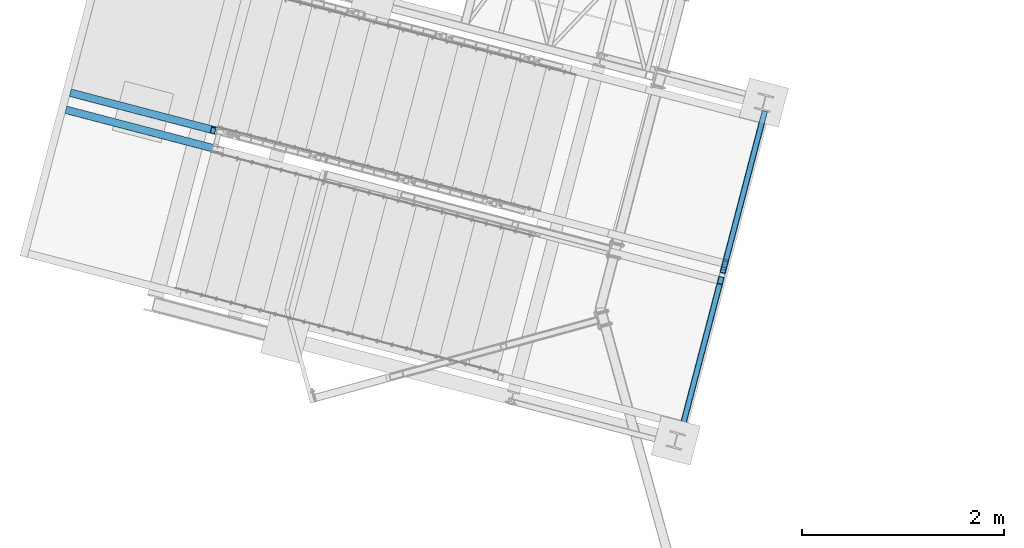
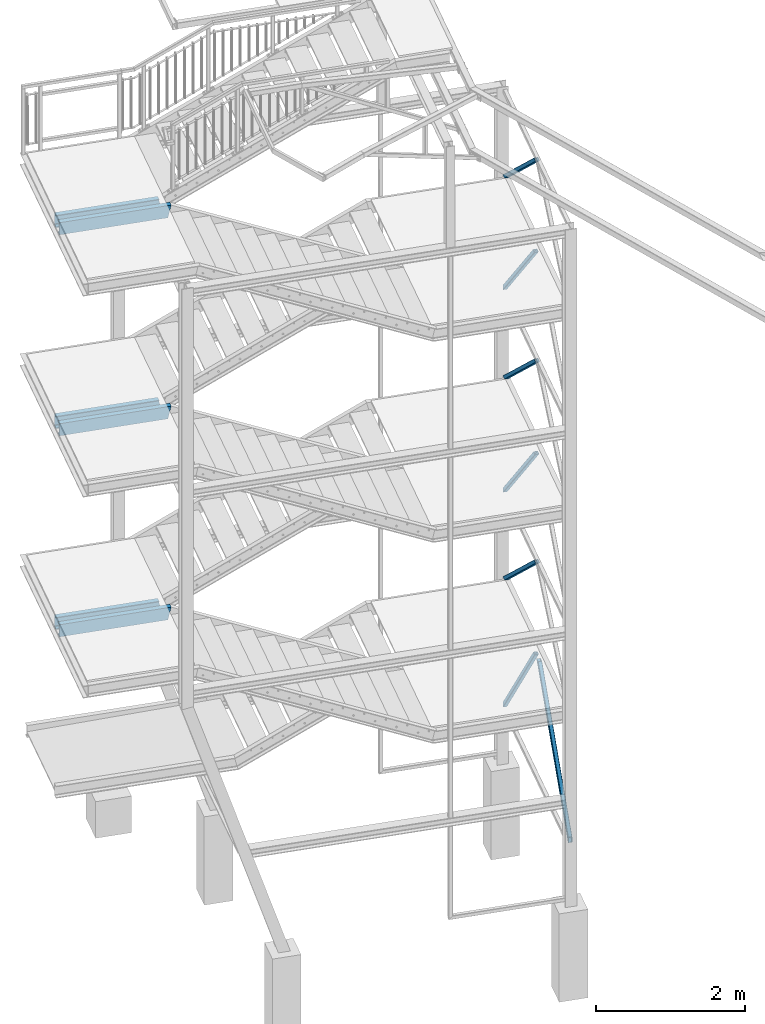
# One storey, part 38 of 169: 13 discrete accessories, 12 elements without a shape of their own.
"""IFC2X3 building model written with IfcOpenShell, lengths in millimetres."""

from ifc_helpers import new_model, si_unit, frame, origin_with_axes, origin_2d_with_axis, place, context, subcontext, project, spatial, polyline, hollow_rectangle, u_section, outline, extrude, boolean, clip, halfspace, material, type_object, element, aggregate, save


model = new_model("IFC2X3")

# Units and contexts
model_context = context("Model", 3, precision=1e-05, world=origin_with_axes())
body_context = subcontext(model_context, "Body", "Model", "MODEL_VIEW")
ifc_project = project(units=[si_unit("LENGTHUNIT", "METRE", prefix="MILLI"), si_unit("AREAUNIT", "SQUARE_METRE"), si_unit("VOLUMEUNIT", "CUBIC_METRE"), si_unit("MASSUNIT", "GRAM", prefix="KILO"), si_unit("TIMEUNIT", "SECOND"), si_unit("PLANEANGLEUNIT", "RADIAN"), si_unit("SOLIDANGLEUNIT", "STERADIAN"), si_unit("THERMODYNAMICTEMPERATUREUNIT", "DEGREE_CELSIUS"), si_unit("LUMINOUSINTENSITYUNIT", "LUMEN")], contexts=[model_context])

# Site, building, storey
site_placement = place(None, origin_with_axes())
site = spatial("IfcSite", under=ifc_project, at=site_placement, Name="Undefined", CompositionType="ELEMENT")
building_placement = place(site_placement, origin_with_axes())
building = spatial("IfcBuilding", under=site, at=building_placement, Name="Undefined", CompositionType="ELEMENT")
storey_placement = place(building_placement, origin_with_axes())
storey = spatial("IfcBuildingStorey", under=building, at=storey_placement, Name="Undefined", CompositionType="ELEMENT", Elevation=0.0)

# Assembly, discrete accessory
assembly_1_placement = place(storey_placement, origin_with_axes())
assembly_1 = element("IfcElementAssembly", 1, at=assembly_1_placement, inside=storey, Name="Steel Assembly", AssemblyPlace="NOTDEFINED", PredefinedType="RIGID_FRAME")
ifc_material = material(Name="STEEL/S235")
discrete_accessory_type_1 = type_object("IfcDiscreteAccessoryType", Name="BELKA")
discrete_accessory_1_placement = place(assembly_1_placement, frame((-29380.2771381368, 7752.45657490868, 12250.0957859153), z_axis=(0.0, 0.0, 1.0), x_axis=(0.967580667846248, -0.252562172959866, 0.0)))
discrete_accessory_1 = element("IfcDiscreteAccessory", 2, at=discrete_accessory_1_placement, type_object=discrete_accessory_type_1, material=ifc_material, Name="BELKA", ObjectType="UPN200", context=body_context, shape_type="Clipping", body=[
    clip(extrude(u_section(Depth=200.0, FlangeWidth=75.0, WebThickness=8.5, FlangeThickness=11.5, FilletRadius=11.5, EdgeRadius=6.0, at=origin_2d_with_axis()), frame((1524.47236507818, 0.0, 1.81898940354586e-12), z_axis=(-1.0, -3.46944695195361e-18, -1.38777878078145e-17), x_axis=(1.73472347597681e-18, -1.0, 0.0)), (0.0, 0.0, 1.0), 1524.47), halfspace(frame((1439.99999935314, -2.50792254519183e-07, 100.000000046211), z_axis=(-0.973248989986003, -3.54065919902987e-15, -0.229752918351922), x_axis=(1.73472347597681e-18, -1.0, 0.0)), True)),
])
aggregate(assembly_1, [discrete_accessory_1])

assembly_2_placement = place(storey_placement, origin_with_axes())
assembly_2 = element("IfcElementAssembly", 3, at=assembly_2_placement, inside=storey, Name="Steel Assembly", AssemblyPlace="NOTDEFINED", PredefinedType="RIGID_FRAME")
discrete_accessory_2_placement = place(assembly_2_placement, frame((-27915.0633320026, 7189.1280599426, 12250.321566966), z_axis=(0.0, 0.0, 1.0), x_axis=(-0.967546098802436, 0.252694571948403, 0.0)))
discrete_accessory_2 = element("IfcDiscreteAccessory", 4, at=discrete_accessory_2_placement, type_object=discrete_accessory_type_1, material=ifc_material, Name="BELKA", ObjectType="UPN200", context=body_context, shape_type="Clipping", body=[
    clip(extrude(u_section(Depth=200.0, FlangeWidth=75.0, WebThickness=8.5, FlangeThickness=11.5, FilletRadius=11.5, EdgeRadius=6.0, at=origin_2d_with_axis()), frame((1559.99999929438, 0.0, 0.0), z_axis=(-1.0, -3.46944695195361e-18, -1.38777878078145e-17), x_axis=(1.73472347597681e-18, -1.0, 0.0)), (0.0, 0.0, 1.0), 1597.28), halfspace(frame((3.32713170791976e-06, -37.5000000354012, 100.000000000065), z_axis=(-0.973248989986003, -3.54065919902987e-15, -0.229752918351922), x_axis=(1.73472347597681e-18, -1.0, 0.0)), False)),
])
aggregate(assembly_2, [discrete_accessory_2])

assembly_3_placement = place(storey_placement, origin_with_axes())
assembly_3 = element("IfcElementAssembly", 5, at=assembly_3_placement, inside=storey, Name="Steel Assembly", AssemblyPlace="NOTDEFINED", PredefinedType="RIGID_FRAME")
discrete_accessory_3_placement = place(assembly_3_placement, frame((-29380.3912155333, 7752.01965996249, 8950.09581681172), z_axis=(0.0, 0.0, 1.0), x_axis=(0.967580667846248, -0.252562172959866, 0.0)))
discrete_accessory_3 = element("IfcDiscreteAccessory", 6, at=discrete_accessory_3_placement, type_object=discrete_accessory_type_1, material=ifc_material, Name="BELKA", ObjectType="UPN200", context=body_context, shape_type="Clipping", body=[
    clip(extrude(u_section(Depth=200.0, FlangeWidth=75.0, WebThickness=8.5, FlangeThickness=11.5, FilletRadius=11.5, EdgeRadius=6.0, at=origin_2d_with_axis()), frame((1524.47236507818, 0.0, 1.81898940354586e-12), z_axis=(-1.0, -3.46944695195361e-18, -1.38777878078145e-17), x_axis=(1.73472347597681e-18, -1.0, 0.0)), (0.0, 0.0, 1.0), 1524.47), halfspace(frame((1439.99999935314, -2.50792254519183e-07, 100.000000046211), z_axis=(-0.973248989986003, -3.54065919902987e-15, -0.229752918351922), x_axis=(1.73472347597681e-18, -1.0, 0.0)), True)),
])
aggregate(assembly_3, [discrete_accessory_3])

assembly_4_placement = place(storey_placement, origin_with_axes())
assembly_4 = element("IfcElementAssembly", 7, at=assembly_4_placement, inside=storey, Name="Steel Assembly", AssemblyPlace="NOTDEFINED", PredefinedType="RIGID_FRAME")
discrete_accessory_4_placement = place(assembly_4_placement, frame((-27915.1774094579, 7188.69114499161, 8950.32159785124), z_axis=(0.0, 0.0, 1.0), x_axis=(-0.967546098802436, 0.252694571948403, 0.0)))
discrete_accessory_4 = element("IfcDiscreteAccessory", 8, at=discrete_accessory_4_placement, type_object=discrete_accessory_type_1, material=ifc_material, Name="BELKA", ObjectType="UPN200", context=body_context, shape_type="Clipping", body=[
    clip(extrude(u_section(Depth=200.0, FlangeWidth=75.0, WebThickness=8.5, FlangeThickness=11.5, FilletRadius=11.5, EdgeRadius=6.0, at=origin_2d_with_axis()), frame((1559.99999929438, 0.0, 0.0), z_axis=(-1.0, -3.46944695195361e-18, -1.38777878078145e-17), x_axis=(1.73472347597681e-18, -1.0, 0.0)), (0.0, 0.0, 1.0), 1597.28), halfspace(frame((3.32713170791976e-06, -37.5000000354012, 100.000000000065), z_axis=(-0.973248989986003, -3.54065919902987e-15, -0.229752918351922), x_axis=(1.73472347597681e-18, -1.0, 0.0)), False)),
])
aggregate(assembly_4, [discrete_accessory_4])

assembly_5_placement = place(storey_placement, origin_with_axes())
assembly_5 = element("IfcElementAssembly", 9, at=assembly_5_placement, inside=storey, Name="Steel Assembly", AssemblyPlace="NOTDEFINED", PredefinedType="RIGID_FRAME")
discrete_accessory_5_placement = place(assembly_5_placement, frame((-29380.5052929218, 7751.58274500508, 5650.09584770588), z_axis=(0.0, 0.0, 1.0), x_axis=(0.967580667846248, -0.252562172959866, 0.0)))
discrete_accessory_5 = element("IfcDiscreteAccessory", 10, at=discrete_accessory_5_placement, type_object=discrete_accessory_type_1, material=ifc_material, Name="BELKA", ObjectType="UPN200", context=body_context, shape_type="Clipping", body=[
    clip(extrude(u_section(Depth=200.0, FlangeWidth=75.0, WebThickness=8.5, FlangeThickness=11.5, FilletRadius=11.5, EdgeRadius=6.0, at=origin_2d_with_axis()), frame((1524.47236507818, 0.0, 1.81898940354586e-12), z_axis=(-1.0, -3.46944695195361e-18, -1.38777878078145e-17), x_axis=(1.73472347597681e-18, -1.0, 0.0)), (0.0, 0.0, 1.0), 1524.47), halfspace(frame((1439.99999935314, -2.50792254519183e-07, 100.000000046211), z_axis=(-0.973248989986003, -3.54065919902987e-15, -0.229752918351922), x_axis=(1.73472347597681e-18, -1.0, 0.0)), True)),
])
aggregate(assembly_5, [discrete_accessory_5])

assembly_6_placement = place(storey_placement, origin_with_axes())
assembly_6 = element("IfcElementAssembly", 11, at=assembly_6_placement, inside=storey, Name="Steel Assembly", AssemblyPlace="NOTDEFINED", PredefinedType="RIGID_FRAME")
discrete_accessory_6_placement = place(assembly_6_placement, frame((-27915.2914868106, 7188.25423003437, 5650.32162876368), z_axis=(0.0, 0.0, 1.0), x_axis=(-0.967546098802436, 0.252694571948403, 0.0)))
discrete_accessory_6 = element("IfcDiscreteAccessory", 12, at=discrete_accessory_6_placement, type_object=discrete_accessory_type_1, material=ifc_material, Name="BELKA", ObjectType="UPN200", context=body_context, shape_type="Clipping", body=[
    clip(extrude(u_section(Depth=200.0, FlangeWidth=75.0, WebThickness=8.5, FlangeThickness=11.5, FilletRadius=11.5, EdgeRadius=6.0, at=origin_2d_with_axis()), frame((1559.99999929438, 0.0, 0.0), z_axis=(-1.0, -3.46944695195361e-18, -1.38777878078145e-17), x_axis=(1.73472347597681e-18, -1.0, 0.0)), (0.0, 0.0, 1.0), 1597.28), halfspace(frame((3.32713170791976e-06, -37.5000000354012, 100.000000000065), z_axis=(-0.973248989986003, -3.54065919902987e-15, -0.229752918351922), x_axis=(1.73472347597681e-18, -1.0, 0.0)), False)),
])
aggregate(assembly_6, [discrete_accessory_6])

assembly_7_placement = place(storey_placement, origin_with_axes())
assembly_7 = element("IfcElementAssembly", 13, at=assembly_7_placement, inside=storey, Name="Steel Assembly", AssemblyPlace="NOTDEFINED", PredefinedType="RIGID_FRAME")
discrete_accessory_type_2 = type_object("IfcDiscreteAccessoryType", Name="COLUMN")
discrete_accessory_7_placement = place(assembly_7_placement, frame((-22914.9032336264, 5973.99254774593, 12070.2086793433), z_axis=(-0.967563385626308, 0.252628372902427, -1.72000000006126e-07), x_axis=(0.192492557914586, 0.737243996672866, -0.647624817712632)))
discrete_accessory_7 = element("IfcDiscreteAccessory", 14, at=discrete_accessory_7_placement, type_object=discrete_accessory_type_2, material=ifc_material, Name="COLUMN", ObjectType="SHS60*4", context=body_context, shape_type="CSG", body=[
    boolean("DIFFERENCE", boolean("DIFFERENCE", boolean("DIFFERENCE", extrude(hollow_rectangle(XDim=60.0, YDim=60.0, WallThickness=4.0, InnerFilletRadius=4.0, OuterFilletRadius=8.0, at=origin_2d_with_axis()), frame((2212.16382141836, -1.94178916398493e-12, -3.69552319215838e-12), z_axis=(-1.0, -3.46944695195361e-18, -1.38777878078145e-17), x_axis=(1.73472347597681e-18, -1.0, 0.0)), (0.0, 0.0, 1.0), 2212.78), extrude(outline(polyline([(0.0, 0.0), (126.745407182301, 4.74137777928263e-08), (126.745407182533, 200.000000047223), (7.80316895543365e-08, 200.000000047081), (0.0, 0.0)])), frame((2144.48233515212, -24.4031554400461, 32.4999994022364), z_axis=(-2.54700353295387e-10, 0.0, -1.0), x_axis=(-0.762047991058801, 0.647520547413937, 5.42642991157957e-10)), (0.0, 0.0, 1.0), 65.0)), halfspace(frame((3186.99041650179, 1202.49411017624, 94.9999991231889), z_axis=(-0.762047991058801, 0.647520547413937, 5.42642991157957e-10), x_axis=(-0.64752054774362, -0.762047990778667, -3.39277903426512e-11)), True)), halfspace(frame((19.4256163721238, 22.8614397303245, 999.999999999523), z_axis=(0.647520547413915, 0.76204799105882, -1.73434819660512e-10), x_axis=(-0.762047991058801, 0.647520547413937, 5.42642991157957e-10)), True)),
])
aggregate(assembly_7, [discrete_accessory_7])

assembly_8_placement = place(storey_placement, origin_with_axes())
assembly_8 = element("IfcElementAssembly", 15, at=assembly_8_placement, inside=storey, Name="Steel Assembly", AssemblyPlace="NOTDEFINED", PredefinedType="RIGID_FRAME")
discrete_accessory_8_placement = place(assembly_8_placement, frame((-22915.0173110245, 5973.55563279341, 8770.20871023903), z_axis=(-0.967563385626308, 0.252628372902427, -1.72000000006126e-07), x_axis=(0.192492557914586, 0.737243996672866, -0.647624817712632)))
discrete_accessory_8 = element("IfcDiscreteAccessory", 16, at=discrete_accessory_8_placement, type_object=discrete_accessory_type_2, material=ifc_material, Name="COLUMN", ObjectType="SHS60*4", context=body_context, shape_type="CSG", body=[
    boolean("DIFFERENCE", boolean("DIFFERENCE", boolean("DIFFERENCE", extrude(hollow_rectangle(XDim=60.0, YDim=60.0, WallThickness=4.0, InnerFilletRadius=4.0, OuterFilletRadius=8.0, at=origin_2d_with_axis()), frame((2212.16382141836, -1.94178916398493e-12, -3.69552319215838e-12), z_axis=(-1.0, -3.46944695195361e-18, -1.38777878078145e-17), x_axis=(1.73472347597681e-18, -1.0, 0.0)), (0.0, 0.0, 1.0), 2212.78), extrude(outline(polyline([(0.0, 0.0), (120.000000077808, 4.71382008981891e-08), (120.000000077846, 200.000000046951), (7.80316895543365e-08, 200.000000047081), (0.0, 0.0)])), frame((2144.48233515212, -24.4031554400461, 32.4999994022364), z_axis=(-2.54700353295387e-10, 0.0, -1.0), x_axis=(-0.762047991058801, 0.647520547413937, 5.42642991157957e-10)), (0.0, 0.0, 1.0), 65.0)), halfspace(frame((3186.99041650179, 1202.49411017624, 94.9999991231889), z_axis=(-0.762047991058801, 0.647520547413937, 5.42642991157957e-10), x_axis=(-0.64752054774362, -0.762047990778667, -3.39277903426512e-11)), True)), halfspace(frame((19.4256163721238, 22.8614397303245, 999.999999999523), z_axis=(0.647520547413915, 0.76204799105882, -1.73434819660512e-10), x_axis=(-0.762047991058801, 0.647520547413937, 5.42642991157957e-10)), True)),
])
aggregate(assembly_8, [discrete_accessory_8])

assembly_9_placement = place(storey_placement, origin_with_axes())
assembly_9 = element("IfcElementAssembly", 17, at=assembly_9_placement, inside=storey, Name="Steel Assembly", AssemblyPlace="NOTDEFINED", PredefinedType="RIGID_FRAME")
discrete_accessory_9_placement = place(assembly_9_placement, frame((-22915.1313884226, 5973.11871784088, 5470.20874113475), z_axis=(-0.967563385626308, 0.252628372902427, -1.72000000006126e-07), x_axis=(0.192492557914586, 0.737243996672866, -0.647624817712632)))
discrete_accessory_9 = element("IfcDiscreteAccessory", 18, at=discrete_accessory_9_placement, type_object=discrete_accessory_type_2, material=ifc_material, Name="COLUMN", ObjectType="SHS60*4", context=body_context, shape_type="CSG", body=[
    boolean("DIFFERENCE", boolean("DIFFERENCE", boolean("DIFFERENCE", extrude(hollow_rectangle(XDim=60.0, YDim=60.0, WallThickness=4.0, InnerFilletRadius=4.0, OuterFilletRadius=8.0, at=origin_2d_with_axis()), frame((2212.16382141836, -1.94178916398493e-12, -3.69552319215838e-12), z_axis=(-1.0, -3.46944695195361e-18, -1.38777878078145e-17), x_axis=(1.73472347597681e-18, -1.0, 0.0)), (0.0, 0.0, 1.0), 2212.78), extrude(outline(polyline([(0.0, 0.0), (143.428054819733, 6.05996319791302e-09), (143.428054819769, 200.000000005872), (14.0166740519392, 200.000000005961), (7.80316895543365e-08, 200.000000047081), (0.0, 0.0)])), frame((2144.48233515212, -24.4031554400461, 32.4999994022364), z_axis=(-2.54700353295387e-10, 0.0, -1.0), x_axis=(-0.762047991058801, 0.647520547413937, 5.42642991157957e-10)), (0.0, 0.0, 1.0), 65.0)), halfspace(frame((3186.99041650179, 1202.49411017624, 94.9999991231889), z_axis=(-0.762047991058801, 0.647520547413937, 5.42642991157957e-10), x_axis=(-0.64752054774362, -0.762047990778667, -3.39277903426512e-11)), True)), halfspace(frame((19.4256163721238, 22.8614397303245, 999.999999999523), z_axis=(0.647520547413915, 0.76204799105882, -1.73434819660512e-10), x_axis=(-0.762047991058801, 0.647520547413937, 5.42642991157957e-10)), True)),
])
aggregate(assembly_9, [discrete_accessory_9])

assembly_10_placement = place(storey_placement, origin_with_axes())
assembly_10 = element("IfcElementAssembly", 19, at=assembly_10_placement, inside=storey, Name="Steel Assembly", AssemblyPlace="NOTDEFINED", PredefinedType="RIGID_FRAME")
discrete_accessory_10_placement = place(assembly_10_placement, frame((-22914.9540499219, 5973.79792199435, 10600.208693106), z_axis=(-0.967563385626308, 0.252628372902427, -1.72000000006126e-07), x_axis=(0.173523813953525, 0.664593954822, -0.726776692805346)))
discrete_accessory_10 = element("IfcDiscreteAccessory", 20, at=discrete_accessory_10_placement, type_object=discrete_accessory_type_2, material=ifc_material, Name="COLUMN", ObjectType="SHS60*4", context=body_context, shape_type="Clipping", body=[
    clip(clip(extrude(hollow_rectangle(XDim=60.0, YDim=60.0, WallThickness=4.0, InnerFilletRadius=4.0, OuterFilletRadius=8.0, at=origin_2d_with_axis()), frame((2482.89312051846, -1.04732295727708e-12, -7.19872636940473e-12), z_axis=(-1.0, -3.46944695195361e-18, -1.38777878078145e-17), x_axis=(1.73472347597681e-18, -1.0, 0.0)), (0.0, 0.0, 1.0), 2426.33), halfspace(frame((3299.02031263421, 848.153863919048, 94.9999982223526), z_axis=(-0.686973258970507, 0.726682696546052, 3.65339230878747e-10), x_axis=(-0.726682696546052, -0.686973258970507, 1.7909769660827e-10)), True)), halfspace(frame((72.6682698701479, 68.6973259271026, 999.999999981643), z_axis=(0.726682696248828, 0.686973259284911, -3.8645761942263e-10), x_axis=(-0.686973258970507, 0.726682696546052, 3.65339230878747e-10)), True)),
])
aggregate(assembly_10, [discrete_accessory_10])

assembly_11_placement = place(storey_placement, origin_with_axes())
assembly_11 = element("IfcElementAssembly", 21, at=assembly_11_placement, inside=storey, Name="Steel Assembly", AssemblyPlace="NOTDEFINED", PredefinedType="RIGID_FRAME")
discrete_accessory_11_placement = place(assembly_11_placement, frame((-22915.0691643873, 5973.35703508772, 7270.20872428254), z_axis=(-0.967563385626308, 0.252628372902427, -1.72000000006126e-07), x_axis=(0.173523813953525, 0.664593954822, -0.726776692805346)))
discrete_accessory_11 = element("IfcDiscreteAccessory", 22, at=discrete_accessory_11_placement, type_object=discrete_accessory_type_2, material=ifc_material, Name="COLUMN", ObjectType="SHS60*4", context=body_context, shape_type="CSG", body=[
    boolean("DIFFERENCE", boolean("DIFFERENCE", boolean("DIFFERENCE", extrude(hollow_rectangle(XDim=60.0, YDim=60.0, WallThickness=4.0, InnerFilletRadius=4.0, OuterFilletRadius=8.0, at=origin_2d_with_axis()), frame((2468.91284459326, 0.0, 7.42671094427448e-12), z_axis=(-1.0, -3.46944695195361e-18, -1.38777878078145e-17), x_axis=(1.73472347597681e-18, -1.0, 0.0)), (0.0, 0.0, 1.0), 2439.66), extrude(outline(polyline([(0.0, 0.0), (60.0000000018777, -8.8220986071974e-11), (59.9999961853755, 60.0000000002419), (5.3567816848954e-11, 59.9999999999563), (0.0, 0.0)])), frame((2419.73425014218, 16.9162201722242, 32.4999986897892), z_axis=(-2.54700353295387e-10, 0.0, -1.0), x_axis=(-0.686973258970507, 0.726682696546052, 3.65339230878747e-10)), (0.0, 0.0, 1.0), 65.0)), halfspace(frame((3299.02031263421, 848.153863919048, 94.9999982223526), z_axis=(-0.686973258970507, 0.726682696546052, 3.65339230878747e-10), x_axis=(-0.726682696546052, -0.686973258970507, 1.7909769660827e-10)), True)), halfspace(frame((31.3847768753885, 68.6973259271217, 999.999999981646), z_axis=(0.726682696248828, 0.686973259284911, -3.8645761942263e-10), x_axis=(-0.686973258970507, 0.726682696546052, 3.65339230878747e-10)), True)),
])
aggregate(assembly_11, [discrete_accessory_11])

# Assembly, discrete accessories
assembly_12_placement = place(storey_placement, origin_with_axes())
assembly_12 = element("IfcElementAssembly", 23, at=assembly_12_placement, inside=storey, Name="Steel Assembly", AssemblyPlace="NOTDEFINED", PredefinedType="RIGID_FRAME")
discrete_accessory_12_placement = place(assembly_12_placement, frame((-22915.1822047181, 5972.9240920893, 4000.20875489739), z_axis=(-0.967563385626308, 0.252628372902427, -1.72000000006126e-07), x_axis=(0.161060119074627, 0.616858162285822, -0.770419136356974)))
discrete_accessory_12 = element("IfcDiscreteAccessory", 24, at=discrete_accessory_12_placement, type_object=discrete_accessory_type_2, material=ifc_material, Name="COLUMN", ObjectType="SHS60*4", context=body_context, shape_type="Clipping", body=[
    clip(clip(extrude(hollow_rectangle(XDim=60.0, YDim=60.0, WallThickness=4.0, InnerFilletRadius=4.0, OuterFilletRadius=8.0, at=origin_2d_with_axis()), frame((2668.23592631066, 3.06630502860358e-13, -5.30751669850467e-14), z_axis=(-1.0, -3.46944695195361e-18, -1.38777878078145e-17), x_axis=(1.73472347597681e-18, -1.0, 0.0)), (0.0, 0.0, 1.0), 2619.0), halfspace(frame((3347.70022031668, 629.128948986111, 95.0000008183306), z_axis=(-0.637643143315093, 0.77033189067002, -1.60288061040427e-10), x_axis=(-0.77033189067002, -0.637643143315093, -4.01003489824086e-10)), True)), halfspace(frame((77.0331885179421, 63.7643143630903, 1000.00000003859), z_axis=(0.770331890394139, 0.637643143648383, 1.93640202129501e-10), x_axis=(-0.637643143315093, 0.77033189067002, -1.60288061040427e-10)), True)),
])
discrete_accessory_13_placement = place(assembly_12_placement, frame((-23352.3015347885, 4298.762737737, 1910.44550247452), z_axis=(-0.967563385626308, 0.252628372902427, -1.72000000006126e-07), x_axis=(0.161113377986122, 0.617062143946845, 0.770244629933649)))
discrete_accessory_13 = element("IfcDiscreteAccessory", 25, at=discrete_accessory_13_placement, type_object=discrete_accessory_type_2, material=ifc_material, Name="COLUMN", ObjectType="SHS60*4", context=body_context, shape_type="Clipping", body=[
    clip(clip(extrude(hollow_rectangle(XDim=60.0, YDim=60.0, WallThickness=4.0, InnerFilletRadius=4.0, OuterFilletRadius=8.0, at=origin_2d_with_axis()), frame((2663.8900217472, -4.54747350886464e-13, -3.65737126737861e-12), z_axis=(-1.0, -3.46944695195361e-18, -1.38777878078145e-17), x_axis=(1.73472347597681e-18, -1.0, 0.0)), (0.0, 0.0, 1.0), 2619.02), halfspace(frame((2636.08310073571, 63.7643143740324, 1000.00000001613), z_axis=(-0.77033189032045, 0.637643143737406, -5.31275813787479e-11), x_axis=(-0.637643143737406, -0.77033189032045, 2.94552591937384e-10)), True)), halfspace(frame((-634.583930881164, 629.128949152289, -65.0000000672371), z_axis=(-0.637643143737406, -0.77033189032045, 2.94552591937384e-10), x_axis=(-0.77033189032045, 0.637643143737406, -5.31275813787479e-11)), False)),
])
aggregate(assembly_12, [discrete_accessory_12, discrete_accessory_13])

save(model, "model.ifc")
